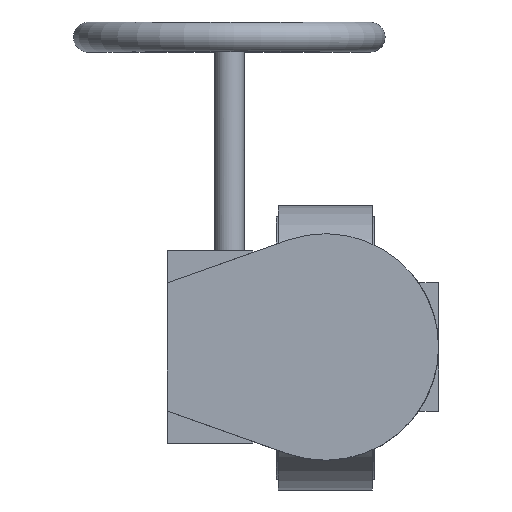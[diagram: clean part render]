
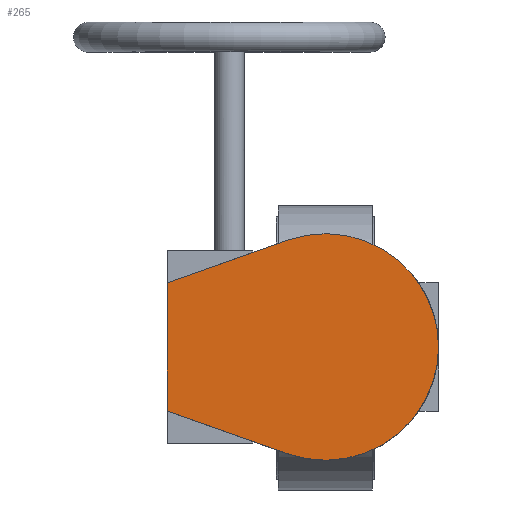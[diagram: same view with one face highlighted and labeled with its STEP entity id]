
A CAD part, top view. The second image highlights one B-rep face of the part: STEP entity #265.
In plain terms, the highlighted planar face has unit normal (0, 0, 1).
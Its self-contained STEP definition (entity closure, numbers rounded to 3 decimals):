
#265=ADVANCED_FACE('',(#6372),#6374,.T.);
#6372=FACE_BOUND('',#6373,.T.);
#6373=EDGE_LOOP('',(#11224,#11225,#11226,#11227));
#6374=PLANE('',#6375);
#6375=AXIS2_PLACEMENT_3D('',#6376,#6377,#6378);
#6376=CARTESIAN_POINT('',(0.,0.,246.));
#6377=DIRECTION('',(0.,0.,1.));
#6378=DIRECTION('',(0.,1.,0.));
#11224=ORIENTED_EDGE('',*,*,#15024,.T.);
#11225=ORIENTED_EDGE('',*,*,#15020,.T.);
#11226=ORIENTED_EDGE('',*,*,#15013,.T.);
#11227=ORIENTED_EDGE('',*,*,#15008,.T.);
#15008=EDGE_CURVE('',#16992,#16990,#16993,.T.);
#15013=EDGE_CURVE('',#17000,#16992,#17001,.T.);
#15020=EDGE_CURVE('',#17013,#17000,#17014,.T.);
#15024=EDGE_CURVE('',#16990,#17013,#17019,.T.);
#16990=VERTEX_POINT('',#20297);
#16992=VERTEX_POINT('',#20301);
#16993=LINE('',#20302,#20303);
#17000=VERTEX_POINT('',#20319);
#17001=LINE('',#20320,#20321);
#17013=VERTEX_POINT('',#20346);
#17014=LINE('',#20347,#20348);
#17019=CIRCLE('',#20360,53.);
#20297=CARTESIAN_POINT('',(-17.708,-49.954,246.));
#20301=CARTESIAN_POINT('',(-74.,-30.,246.));
#20302=CARTESIAN_POINT('',(-74.,-30.,246.));
#20303=VECTOR('',#20304,1.);
#20304=DIRECTION('',(0.943,-0.334,0.));
#20319=CARTESIAN_POINT('',(-74.,30.,246.));
#20320=CARTESIAN_POINT('',(-74.,30.,246.));
#20321=VECTOR('',#20322,1.);
#20322=DIRECTION('',(0.,-1.,0.));
#20346=CARTESIAN_POINT('',(-17.708,49.954,246.));
#20347=CARTESIAN_POINT('',(-17.708,49.954,246.));
#20348=VECTOR('',#20349,1.);
#20349=DIRECTION('',(-0.943,-0.334,0.));
#20360=AXIS2_PLACEMENT_3D('',#20361,#20362,#20363);
#20361=CARTESIAN_POINT('',(0.,0.,246.));
#20362=DIRECTION('',(0.,0.,1.));
#20363=DIRECTION('',(-0.334,-0.943,0.));
